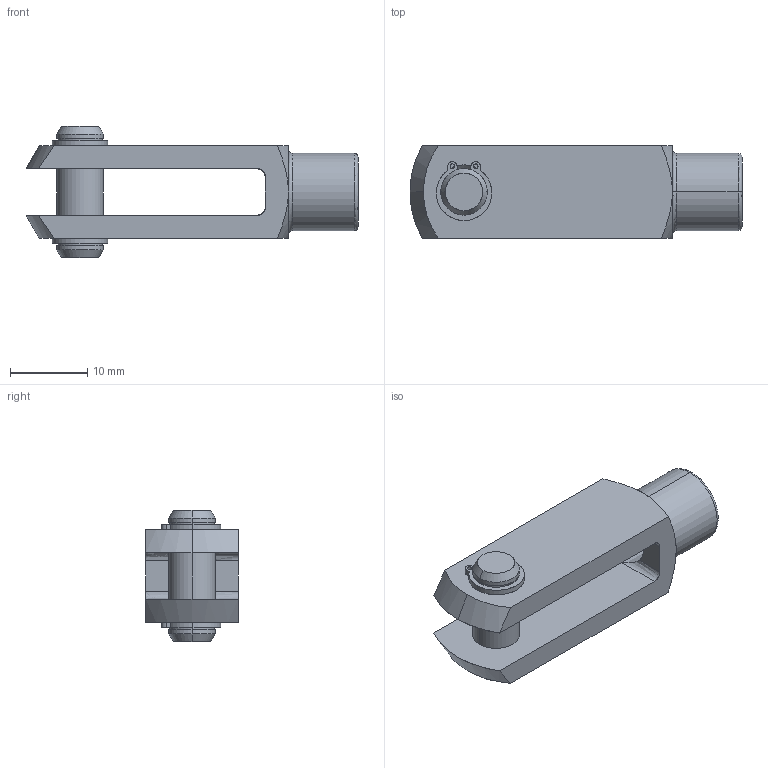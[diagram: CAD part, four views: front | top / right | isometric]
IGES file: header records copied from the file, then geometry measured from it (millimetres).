
Start section: SolidWorks IGES file using analytic representation for surfaces
Global section: file name: C:\Documents and Settings\IANO\My Documents\Wix and Auto CAD Work\CAD Models\Parametric Models\Wix Models\60000\65614_v2\65614_v2_IGES\65614.W0062.igs; native system: SolidWorks 2009; preprocessor: SolidWorks 2009; author: IANO; date: 140118.103838; units: millimetre
Bounding box: 43 x 12 x 17 mm (x, y, z)
Surface area: 3085.8 mm2 (no closed solid volume)
Topology: 0 solids, 0 shells, 95 faces, 1512 edges, 1512 vertices
Faces by surface type: revolution 63, bspline 32
